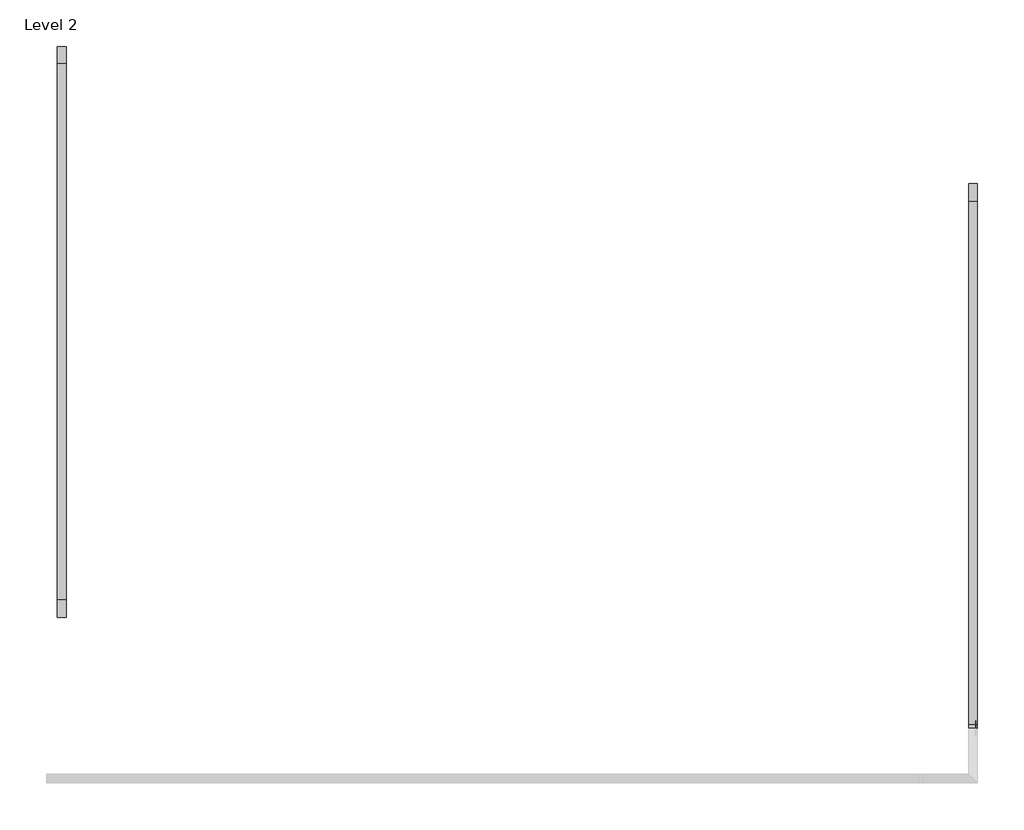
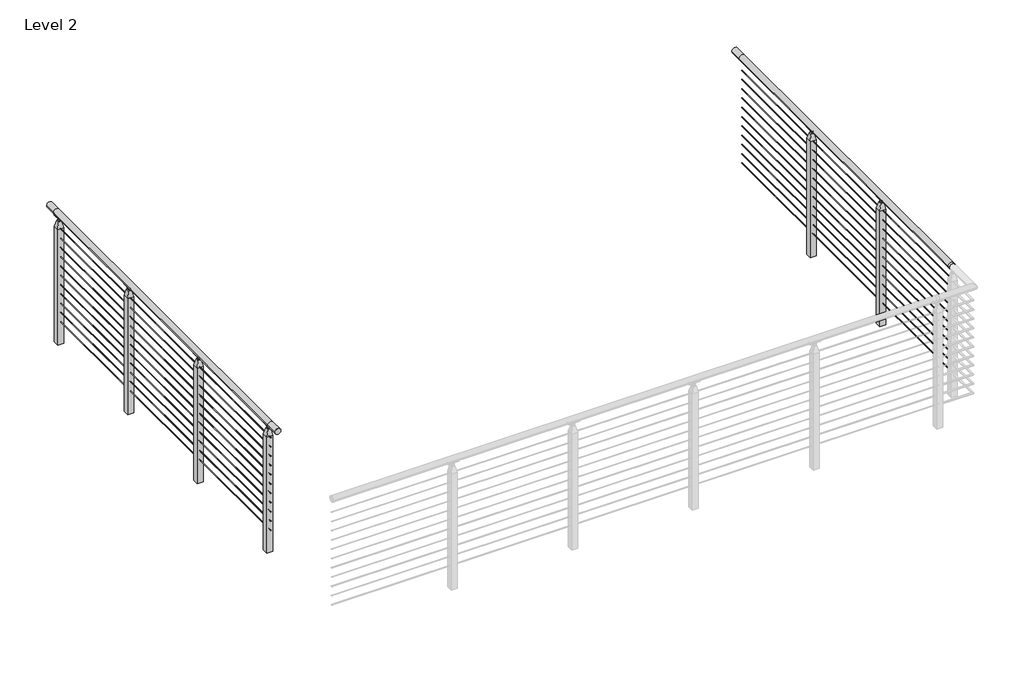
# One storey, part 13 of 17: 2 railings.
"""IFC4 building model written with IfcOpenShell, lengths in millimetres."""

from ifc_helpers import new_model, si_unit, point, frame, frame_2d, origin, place, context, project, spatial, polyline, circle_curve, trimmed, segment, composite_curve, outline, extrude, faceted_brep, element, save
from ifc_brep_helpers import plane_surface, cylinder_surface, revolved_surface, advanced_brep

model = new_model("IFC4")

# Units and contexts
model_context = context("Model", 3, world=origin())
ifc_project = project(units=[si_unit("LENGTHUNIT", "METRE", prefix="MILLI")], contexts=[model_context])

# Site, building, storey
site = spatial("IfcSite", under=ifc_project)
building = spatial("IfcBuilding", under=site)
storey = spatial("IfcBuildingStorey", under=building, Name="Level 2", Elevation=3048.0)

# Railings
placement = place(None, origin())
element("IfcRailing", 1, ObjectType="VIVA-CUBE-Cable-Weld Mount-Straight", at=placement, inside=storey, context=model_context, shape_type="SolidModel", body=[
    advanced_brep(
    [(41230.3572927, -51279.2426165, 4102.1), (41179.5572927, -51279.2426165, 4102.1), (41230.3572927, -51177.6426165, 4102.1), (41179.5572927, -51177.6426165, 4102.1), (41230.3572927, -48053.4426165, 4102.1), (41179.5572927, -48053.4426165, 4102.1), (41230.3572927, -47951.8426165, 4102.1), (41179.5572927, -47951.8426165, 4102.1)],
    [
        (0, 1, circle_curve(frame((41204.9572927, -51279.2426165, 4102.1), z_axis=(0.0, -1.0, 0.0), x_axis=(-1.0, 0.0, 0.0)), 25.4)),
        (1, 0, circle_curve(frame((41204.9572927, -51279.2426165, 4102.1), z_axis=(0.0, -1.0, 0.0), x_axis=(-1.0, 0.0, 0.0)), 25.4)),
        (0, 2),
        (2, 3, circle_curve(frame((41204.9572927, -51177.6426165, 4102.1), z_axis=(0.0, -1.0, 0.0), x_axis=(-1.0, 0.0, 0.0)), 25.4)),
        (3, 1),
        (3, 2, circle_curve(frame((41204.9572927, -51177.6426165, 4102.1), z_axis=(0.0, -1.0, 0.0), x_axis=(-1.0, 0.0, 0.0)), 25.4)),
        (2, 4),
        (4, 5, circle_curve(frame((41204.9572927, -48053.4426165, 4102.1), z_axis=(0.0, -1.0, 0.0), x_axis=(-1.0, 0.0, 0.0)), 25.4)),
        (5, 3),
        (5, 4, circle_curve(frame((41204.9572927, -48053.4426165, 4102.1), z_axis=(0.0, -1.0, 0.0), x_axis=(-1.0, 0.0, 0.0)), 25.4)),
        (6, 7, circle_curve(frame((41204.9572927, -47951.8426165, 4102.1), z_axis=(0.0, 1.0, 0.0), x_axis=(-1.0, 0.0, 0.0)), 25.4)),
        (7, 6, circle_curve(frame((41204.9572927, -47951.8426165, 4102.1), z_axis=(0.0, 1.0, 0.0), x_axis=(-1.0, 0.0, 0.0)), 25.4)),
        (4, 6),
        (7, 5),
    ],
    [
        plane_surface(frame((41204.9572927, -51279.2426165, 4127.5), z_axis=(0.0, -1.0, 0.0), x_axis=(0.0, 0.0, 1.0))),
        cylinder_surface(frame((41204.9572927, -51279.2426165, 4102.1), z_axis=(0.0, -1.0, 0.0), x_axis=(-1.0, 0.0, 0.0)), 25.4),
        cylinder_surface(frame((41204.9572927, -51177.6426165, 4102.1), z_axis=(0.0, -1.0, 0.0), x_axis=(-1.0, 0.0, 0.0)), 25.4),
        plane_surface(frame((41204.9572927, -47951.8426165, 4127.5), z_axis=(0.0, 1.0, 0.0), x_axis=(0.0, 0.0, 1.0))),
        cylinder_surface(frame((41204.9572927, -48053.4426165, 4102.1), z_axis=(0.0, -1.0, 0.0), x_axis=(-1.0, 0.0, 0.0)), 25.4),
    ],
    [
        (0, [[1, 2]]),
        (1, [[-1, 3, 4, 5]]),
        (1, [[-2, -5, 6, -3]]),
        (2, [[-4, 7, 8, 9]]),
        (2, [[-6, -9, 10, -7]]),
        (3, [[11, 12]]),
        (4, [[-8, 13, -12, 14]]),
        (4, [[-10, -14, -11, -13]]),
    ],
),
    extrude(outline(composite_curve([segment(trimmed(circle_curve(frame_2d((3985.4124, 41204.9572927)), 2.3876), [point((3985.4124, 41207.3448927))], [point((3985.4124, 41202.5696927))], False, "CARTESIAN"), True, "CONTINUOUS"), segment(trimmed(circle_curve(frame_2d((3985.4124, 41204.9572927)), 2.3876), [point((3985.4124, 41202.5696927))], [point((3985.4124, 41207.3448927))], False, "CARTESIAN"), True, "CONTINUOUS")], self_intersect=False)), frame((0.0, -51177.6426165, 0.0), z_axis=(0.0, 1.0, 0.0), x_axis=(0.0, 0.0, 1.0)), (0.0, 0.0, 1.0), 3124.2),
    extrude(outline(composite_curve([segment(trimmed(circle_curve(frame_2d((3902.8624, 41204.9572927)), 2.3876), [point((3902.8624, 41207.3448927))], [point((3902.8624, 41202.5696927))], False, "CARTESIAN"), True, "CONTINUOUS"), segment(trimmed(circle_curve(frame_2d((3902.8624, 41204.9572927)), 2.3876), [point((3902.8624, 41202.5696927))], [point((3902.8624, 41207.3448927))], False, "CARTESIAN"), True, "CONTINUOUS")], self_intersect=False)), frame((0.0, -51177.6426165, 0.0), z_axis=(0.0, 1.0, 0.0), x_axis=(0.0, 0.0, 1.0)), (0.0, 0.0, 1.0), 3124.2),
    extrude(outline(composite_curve([segment(trimmed(circle_curve(frame_2d((3820.3124, 41204.9572927)), 2.3876), [point((3820.3124, 41207.3448927))], [point((3820.3124, 41202.5696927))], False, "CARTESIAN"), True, "CONTINUOUS"), segment(trimmed(circle_curve(frame_2d((3820.3124, 41204.9572927)), 2.3876), [point((3820.3124, 41202.5696927))], [point((3820.3124, 41207.3448927))], False, "CARTESIAN"), True, "CONTINUOUS")], self_intersect=False)), frame((0.0, -51177.6426165, 0.0), z_axis=(0.0, 1.0, 0.0), x_axis=(0.0, 0.0, 1.0)), (0.0, 0.0, 1.0), 3124.2),
    extrude(outline(composite_curve([segment(trimmed(circle_curve(frame_2d((3737.7624, 41204.9572927)), 2.3876), [point((3737.7624, 41207.3448927))], [point((3737.7624, 41202.5696927))], False, "CARTESIAN"), True, "CONTINUOUS"), segment(trimmed(circle_curve(frame_2d((3737.7624, 41204.9572927)), 2.3876), [point((3737.7624, 41202.5696927))], [point((3737.7624, 41207.3448927))], False, "CARTESIAN"), True, "CONTINUOUS")], self_intersect=False)), frame((0.0, -51177.6426165, 0.0), z_axis=(0.0, 1.0, 0.0), x_axis=(0.0, 0.0, 1.0)), (0.0, 0.0, 1.0), 3124.2),
    extrude(outline(composite_curve([segment(trimmed(circle_curve(frame_2d((3655.2124, 41204.9572927)), 2.3876), [point((3655.2124, 41207.3448927))], [point((3655.2124, 41202.5696927))], False, "CARTESIAN"), True, "CONTINUOUS"), segment(trimmed(circle_curve(frame_2d((3655.2124, 41204.9572927)), 2.3876), [point((3655.2124, 41202.5696927))], [point((3655.2124, 41207.3448927))], False, "CARTESIAN"), True, "CONTINUOUS")], self_intersect=False)), frame((0.0, -51177.6426165, 0.0), z_axis=(0.0, 1.0, 0.0), x_axis=(0.0, 0.0, 1.0)), (0.0, 0.0, 1.0), 3124.2),
    extrude(outline(composite_curve([segment(trimmed(circle_curve(frame_2d((3572.6624, 41204.9572927)), 2.3876), [point((3572.6624, 41207.3448927))], [point((3572.6624, 41202.5696927))], False, "CARTESIAN"), True, "CONTINUOUS"), segment(trimmed(circle_curve(frame_2d((3572.6624, 41204.9572927)), 2.3876), [point((3572.6624, 41202.5696927))], [point((3572.6624, 41207.3448927))], False, "CARTESIAN"), True, "CONTINUOUS")], self_intersect=False)), frame((0.0, -51177.6426165, 0.0), z_axis=(0.0, 1.0, 0.0), x_axis=(0.0, 0.0, 1.0)), (0.0, 0.0, 1.0), 3124.2),
    extrude(outline(composite_curve([segment(trimmed(circle_curve(frame_2d((3490.1124, 41204.9572927)), 2.3876), [point((3490.1124, 41207.3448927))], [point((3490.1124, 41202.5696927))], False, "CARTESIAN"), True, "CONTINUOUS"), segment(trimmed(circle_curve(frame_2d((3490.1124, 41204.9572927)), 2.3876), [point((3490.1124, 41202.5696927))], [point((3490.1124, 41207.3448927))], False, "CARTESIAN"), True, "CONTINUOUS")], self_intersect=False)), frame((0.0, -51177.6426165, 0.0), z_axis=(0.0, 1.0, 0.0), x_axis=(0.0, 0.0, 1.0)), (0.0, 0.0, 1.0), 3124.2),
    extrude(outline(composite_curve([segment(trimmed(circle_curve(frame_2d((3407.5624, 41204.9572927)), 2.3876), [point((3407.5624, 41207.3448927))], [point((3407.5624, 41202.5696927))], False, "CARTESIAN"), True, "CONTINUOUS"), segment(trimmed(circle_curve(frame_2d((3407.5624, 41204.9572927)), 2.3876), [point((3407.5624, 41202.5696927))], [point((3407.5624, 41207.3448927))], False, "CARTESIAN"), True, "CONTINUOUS")], self_intersect=False)), frame((0.0, -51177.6426165, 0.0), z_axis=(0.0, 1.0, 0.0), x_axis=(0.0, 0.0, 1.0)), (0.0, 0.0, 1.0), 3124.2),
    extrude(outline(composite_curve([segment(trimmed(circle_curve(frame_2d((3325.0124, 41204.9572927)), 2.3876), [point((3325.0124, 41207.3448927))], [point((3325.0124, 41202.5696927))], False, "CARTESIAN"), True, "CONTINUOUS"), segment(trimmed(circle_curve(frame_2d((3325.0124, 41204.9572927)), 2.3876), [point((3325.0124, 41202.5696927))], [point((3325.0124, 41207.3448927))], False, "CARTESIAN"), True, "CONTINUOUS")], self_intersect=False)), frame((0.0, -51177.6426165, 0.0), z_axis=(0.0, 1.0, 0.0), x_axis=(0.0, 0.0, 1.0)), (0.0, 0.0, 1.0), 3124.2),
    extrude(outline(composite_curve([segment(trimmed(circle_curve(frame_2d((3242.4624, 41204.9572927)), 2.3876), [point((3242.4624, 41207.3448927))], [point((3242.4624, 41202.5696927))], False, "CARTESIAN"), True, "CONTINUOUS"), segment(trimmed(circle_curve(frame_2d((3242.4624, 41204.9572927)), 2.3876), [point((3242.4624, 41202.5696927))], [point((3242.4624, 41207.3448927))], False, "CARTESIAN"), True, "CONTINUOUS")], self_intersect=False)), frame((0.0, -51177.6426165, 0.0), z_axis=(0.0, 1.0, 0.0), x_axis=(0.0, 0.0, 1.0)), (0.0, 0.0, 1.0), 3124.2),
    extrude(outline(composite_curve([segment(trimmed(circle_curve(frame_2d((3159.9124, 41204.9572927)), 2.3876), [point((3159.9124, 41207.3448927))], [point((3159.9124, 41202.5696927))], False, "CARTESIAN"), True, "CONTINUOUS"), segment(trimmed(circle_curve(frame_2d((3159.9124, 41204.9572927)), 2.3876), [point((3159.9124, 41202.5696927))], [point((3159.9124, 41207.3448927))], False, "CARTESIAN"), True, "CONTINUOUS")], self_intersect=False)), frame((0.0, -51177.6426165, 0.0), z_axis=(0.0, 1.0, 0.0), x_axis=(0.0, 0.0, 1.0)), (0.0, 0.0, 1.0), 3124.2),
    faceted_brep([(41217.6572927, -48078.4457415, 4045.2902749), (41208.9260427, -48078.4457415, 4045.2902749), (41208.9260427, -48103.8457415, 4045.2902749), (41217.6572927, -48103.8457415, 4045.2902749), (41192.2572927, -48103.8457415, 4045.2902749), (41200.9885427, -48103.8457415, 4045.2902749), (41200.9885427, -48078.4457415, 4045.2902749), (41192.2572927, -48078.4457415, 4045.2902749), (41230.3572927, -48065.7457415, 3989.1347854), (41179.5572927, -48065.7457415, 3989.1347854), (41230.3572927, -48116.5457415, 3989.1347854), (41179.5572927, -48116.5457415, 3989.1347854), (41230.3572927, -48065.7457415, 2959.1), (41230.3572927, -48116.5457415, 2959.1), (41179.5572927, -48116.5457415, 2959.1), (41179.5572927, -48065.7457415, 2959.1), (41200.9885427, -48103.8457415, 4057.3306013), (41208.9260427, -48103.8457415, 4057.3306013), (41208.9260427, -48078.4457415, 4057.3306013), (41200.9885427, -48078.4457415, 4057.3306013)], [[[0, 1, 2, 3]], [[4, 5, 6, 7]], [[8, 9, 7, 6, 1, 0]], [[3, 10, 8, 0]], [[3, 2, 5, 4, 11, 10]], [[7, 9, 11, 4]], [[12, 13, 14, 15]], [[12, 8, 10, 13]], [[13, 10, 11, 14]], [[14, 11, 9, 15]], [[15, 9, 8, 12]], [[16, 17, 18, 19]], [[19, 6, 5, 16]], [[18, 1, 6, 19]], [[17, 2, 1, 18]], [[16, 5, 2, 17]]]),
    extrude(outline(composite_curve([segment(trimmed(circle_curve(frame_2d((4077.5101807, 41190.9426605)), 2.9558141), [point((4080.0284941, 41192.4902182))], [point((4075.6392616, 41188.6543207))], False, "CARTESIAN"), True, "CONTINUOUS"), segment(trimmed(circle_curve(frame_2d((4102.905945, 41204.920558)), 31.75), [point((4075.6392616, 41188.6543207))], [point((4075.0585031, 41220.171213))], False, "CARTESIAN"), True, "CONTINUOUS"), segment(trimmed(circle_curve(frame_2d((4077.4310885, 41218.6939079)), 2.7949225), [point((4075.0585031, 41220.171213))], [point((4079.9335733, 41217.4492548))], False, "CARTESIAN"), True, "CONTINUOUS"), segment(trimmed(circle_curve(frame_2d((4102.1433184, 41205.0540211)), 25.4345159), [point((4079.9335733, 41217.4492548))], [point((4080.0284941, 41192.4902182))], True, "CARTESIAN"), True, "CONTINUOUS")], self_intersect=False)), frame((0.0, -48136.3831415, 0.0), z_axis=(0.0, 1.0, 0.0), x_axis=(0.0, 0.0, 1.0)), (0.0, 0.0, 1.0), 90.4748),
    advanced_brep(
    [(41207.4972927, -48064.0778267, 4071.3685171), (41207.4972927, -48118.2136564, 4071.3685171), (41207.4972927, -48103.8457415, 4057.0006022), (41207.4972927, -48078.4457415, 4057.0006022), (41202.4172927, -48064.0778267, 4071.3685171), (41202.4172927, -48078.4457415, 4057.0006022), (41202.4172927, -48103.8457415, 4057.0006022), (41202.4172927, -48118.2136564, 4071.3685171)],
    [
        (0, 1),
        (1, 2, circle_curve(frame((41207.4972927, -48118.2136564, 4057.0006022), z_axis=(-1.0, 0.0, 0.0), x_axis=(0.0, -1.0, 0.0)), 14.3679149)),
        (2, 3, circle_curve(frame((41207.4972927, -48091.1457415, 4057.0006022), z_axis=(1.0, 0.0, 0.0), x_axis=(0.0, -1.0, 0.0)), 12.7)),
        (3, 0, circle_curve(frame((41207.4972927, -48064.0778267, 4057.0006022), z_axis=(-1.0, 0.0, 0.0), x_axis=(0.0, -1.0, 0.0)), 14.3679149)),
        (4, 5, circle_curve(frame((41202.4172927, -48064.0778267, 4057.0006022), z_axis=(1.0, 0.0, 0.0), x_axis=(0.0, -1.0, 0.0)), 14.3679149)),
        (5, 6, circle_curve(frame((41202.4172927, -48091.1457415, 4057.0006022), z_axis=(-1.0, 0.0, 0.0), x_axis=(0.0, -1.0, 0.0)), 12.7)),
        (6, 7, circle_curve(frame((41202.4172927, -48118.2136564, 4057.0006022), z_axis=(1.0, 0.0, 0.0), x_axis=(0.0, -1.0, 0.0)), 14.3679149)),
        (7, 4),
        (3, 5),
        (4, 0),
        (2, 6),
        (1, 7),
    ],
    [
        plane_surface(frame((41207.4972927, -48078.4457415, 4057.0006022), z_axis=(1.0, 0.0, 0.0), x_axis=(0.0, 0.0, -1.0))),
        plane_surface(frame((41202.4172927, -48078.4457415, 4057.0006022), z_axis=(-1.0, 0.0, 0.0), x_axis=(0.0, 0.0, 1.0))),
        revolved_surface(polyline([(41202.4172927, -48078.4457416, 4057.0006022), (41207.4972927, -48078.4457416, 4057.0006022)]), (41202.4172927, -48064.0778267, 4057.0006022), (-1.0, 0.0, 0.0)),
        cylinder_surface(frame((41202.4172927, -48091.1457415, 4057.0006022), z_axis=(1.0, 0.0, 0.0), x_axis=(0.0, -1.0, 0.0)), 12.7),
        revolved_surface(polyline([(41202.4172927, -48132.581571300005, 4057.0006022), (41207.4972927, -48132.581571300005, 4057.0006022)]), (41202.4172927, -48118.2136564, 4057.0006022), (-1.0, 0.0, 0.0)),
        plane_surface(frame((41207.4972927, -48118.2136564, 4071.3685171), z_axis=(0.0, 0.0, 1.0), x_axis=(-1.0, 0.0, 0.0))),
    ],
    [
        (0, [[1, 2, 3, 4]]),
        (1, [[5, 6, 7, 8]]),
        (2, [[9, -5, 10, -4]]),
        (3, [[11, -6, -9, -3]]),
        (4, [[12, -7, -11, -2]]),
        (5, [[-10, -8, -12, -1]]),
    ],
),
    faceted_brep([(41217.6572927, -49094.4457415, 4045.2902749), (41208.9260427, -49094.4457415, 4045.2902749), (41208.9260427, -49119.8457415, 4045.2902749), (41217.6572927, -49119.8457415, 4045.2902749), (41192.2572927, -49119.8457415, 4045.2902749), (41200.9885427, -49119.8457415, 4045.2902749), (41200.9885427, -49094.4457415, 4045.2902749), (41192.2572927, -49094.4457415, 4045.2902749), (41230.3572927, -49081.7457415, 3989.1347854), (41179.5572927, -49081.7457415, 3989.1347854), (41230.3572927, -49132.5457415, 3989.1347854), (41179.5572927, -49132.5457415, 3989.1347854), (41230.3572927, -49081.7457415, 2959.1), (41230.3572927, -49132.5457415, 2959.1), (41179.5572927, -49132.5457415, 2959.1), (41179.5572927, -49081.7457415, 2959.1), (41200.9885427, -49119.8457415, 4057.3306013), (41208.9260427, -49119.8457415, 4057.3306013), (41208.9260427, -49094.4457415, 4057.3306013), (41200.9885427, -49094.4457415, 4057.3306013)], [[[0, 1, 2, 3]], [[4, 5, 6, 7]], [[8, 9, 7, 6, 1, 0]], [[3, 10, 8, 0]], [[3, 2, 5, 4, 11, 10]], [[7, 9, 11, 4]], [[12, 13, 14, 15]], [[12, 8, 10, 13]], [[13, 10, 11, 14]], [[14, 11, 9, 15]], [[15, 9, 8, 12]], [[16, 17, 18, 19]], [[19, 6, 5, 16]], [[18, 1, 6, 19]], [[17, 2, 1, 18]], [[16, 5, 2, 17]]]),
    extrude(outline(composite_curve([segment(trimmed(circle_curve(frame_2d((4077.5101807, 41190.9426605)), 2.9558141), [point((4080.0284941, 41192.4902182))], [point((4075.6392616, 41188.6543207))], False, "CARTESIAN"), True, "CONTINUOUS"), segment(trimmed(circle_curve(frame_2d((4102.905945, 41204.920558)), 31.75), [point((4075.6392616, 41188.6543207))], [point((4075.0585031, 41220.171213))], False, "CARTESIAN"), True, "CONTINUOUS"), segment(trimmed(circle_curve(frame_2d((4077.4310885, 41218.6939079)), 2.7949225), [point((4075.0585031, 41220.171213))], [point((4079.9335733, 41217.4492548))], False, "CARTESIAN"), True, "CONTINUOUS"), segment(trimmed(circle_curve(frame_2d((4102.1433184, 41205.0540211)), 25.4345159), [point((4079.9335733, 41217.4492548))], [point((4080.0284941, 41192.4902182))], True, "CARTESIAN"), True, "CONTINUOUS")], self_intersect=False)), frame((0.0, -49152.3831415, 0.0), z_axis=(0.0, 1.0, 0.0), x_axis=(0.0, 0.0, 1.0)), (0.0, 0.0, 1.0), 90.4748),
    advanced_brep(
    [(41207.4972927, -49080.0778267, 4071.3685171), (41207.4972927, -49134.2136564, 4071.3685171), (41207.4972927, -49119.8457415, 4057.0006022), (41207.4972927, -49094.4457415, 4057.0006022), (41202.4172927, -49080.0778267, 4071.3685171), (41202.4172927, -49094.4457415, 4057.0006022), (41202.4172927, -49119.8457415, 4057.0006022), (41202.4172927, -49134.2136564, 4071.3685171)],
    [
        (0, 1),
        (1, 2, circle_curve(frame((41207.4972927, -49134.2136564, 4057.0006022), z_axis=(-1.0, 0.0, 0.0), x_axis=(0.0, -1.0, 0.0)), 14.3679149)),
        (2, 3, circle_curve(frame((41207.4972927, -49107.1457415, 4057.0006022), z_axis=(1.0, 0.0, 0.0), x_axis=(0.0, -1.0, 0.0)), 12.7)),
        (3, 0, circle_curve(frame((41207.4972927, -49080.0778267, 4057.0006022), z_axis=(-1.0, 0.0, 0.0), x_axis=(0.0, -1.0, 0.0)), 14.3679149)),
        (4, 5, circle_curve(frame((41202.4172927, -49080.0778267, 4057.0006022), z_axis=(1.0, 0.0, 0.0), x_axis=(0.0, -1.0, 0.0)), 14.3679149)),
        (5, 6, circle_curve(frame((41202.4172927, -49107.1457415, 4057.0006022), z_axis=(-1.0, 0.0, 0.0), x_axis=(0.0, -1.0, 0.0)), 12.7)),
        (6, 7, circle_curve(frame((41202.4172927, -49134.2136564, 4057.0006022), z_axis=(1.0, 0.0, 0.0), x_axis=(0.0, -1.0, 0.0)), 14.3679149)),
        (7, 4),
        (3, 5),
        (4, 0),
        (2, 6),
        (1, 7),
    ],
    [
        plane_surface(frame((41207.4972927, -49094.4457415, 4057.0006022), z_axis=(1.0, 0.0, 0.0), x_axis=(0.0, 0.0, -1.0))),
        plane_surface(frame((41202.4172927, -49094.4457415, 4057.0006022), z_axis=(-1.0, 0.0, 0.0), x_axis=(0.0, 0.0, 1.0))),
        revolved_surface(polyline([(41202.4172927, -49094.4457416, 4057.0006022), (41207.4972927, -49094.4457416, 4057.0006022)]), (41202.4172927, -49080.0778267, 4057.0006022), (-1.0, 0.0, 0.0)),
        cylinder_surface(frame((41202.4172927, -49107.1457415, 4057.0006022), z_axis=(1.0, 0.0, 0.0), x_axis=(0.0, -1.0, 0.0)), 12.7),
        revolved_surface(polyline([(41202.4172927, -49148.581571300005, 4057.0006022), (41207.4972927, -49148.581571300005, 4057.0006022)]), (41202.4172927, -49134.2136564, 4057.0006022), (-1.0, 0.0, 0.0)),
        plane_surface(frame((41207.4972927, -49134.2136564, 4071.3685171), z_axis=(0.0, 0.0, 1.0), x_axis=(-1.0, 0.0, 0.0))),
    ],
    [
        (0, [[1, 2, 3, 4]]),
        (1, [[5, 6, 7, 8]]),
        (2, [[9, -5, 10, -4]]),
        (3, [[11, -6, -9, -3]]),
        (4, [[12, -7, -11, -2]]),
        (5, [[-10, -8, -12, -1]]),
    ],
),
    faceted_brep([(41217.6572927, -50110.4457415, 4045.2902749), (41208.9260427, -50110.4457415, 4045.2902749), (41208.9260427, -50135.8457415, 4045.2902749), (41217.6572927, -50135.8457415, 4045.2902749), (41192.2572927, -50135.8457415, 4045.2902749), (41200.9885427, -50135.8457415, 4045.2902749), (41200.9885427, -50110.4457415, 4045.2902749), (41192.2572927, -50110.4457415, 4045.2902749), (41230.3572927, -50097.7457415, 3989.1347854), (41179.5572927, -50097.7457415, 3989.1347854), (41230.3572927, -50148.5457415, 3989.1347854), (41179.5572927, -50148.5457415, 3989.1347854), (41230.3572927, -50097.7457415, 2959.1), (41230.3572927, -50148.5457415, 2959.1), (41179.5572927, -50148.5457415, 2959.1), (41179.5572927, -50097.7457415, 2959.1), (41200.9885427, -50135.8457415, 4057.3306013), (41208.9260427, -50135.8457415, 4057.3306013), (41208.9260427, -50110.4457415, 4057.3306013), (41200.9885427, -50110.4457415, 4057.3306013)], [[[0, 1, 2, 3]], [[4, 5, 6, 7]], [[8, 9, 7, 6, 1, 0]], [[3, 10, 8, 0]], [[3, 2, 5, 4, 11, 10]], [[7, 9, 11, 4]], [[12, 13, 14, 15]], [[12, 8, 10, 13]], [[13, 10, 11, 14]], [[14, 11, 9, 15]], [[15, 9, 8, 12]], [[16, 17, 18, 19]], [[19, 6, 5, 16]], [[18, 1, 6, 19]], [[17, 2, 1, 18]], [[16, 5, 2, 17]]]),
    extrude(outline(composite_curve([segment(trimmed(circle_curve(frame_2d((4077.5101807, 41190.9426605)), 2.9558141), [point((4080.0284941, 41192.4902182))], [point((4075.6392616, 41188.6543207))], False, "CARTESIAN"), True, "CONTINUOUS"), segment(trimmed(circle_curve(frame_2d((4102.905945, 41204.920558)), 31.75), [point((4075.6392616, 41188.6543207))], [point((4075.0585031, 41220.171213))], False, "CARTESIAN"), True, "CONTINUOUS"), segment(trimmed(circle_curve(frame_2d((4077.4310885, 41218.6939079)), 2.7949225), [point((4075.0585031, 41220.171213))], [point((4079.9335733, 41217.4492548))], False, "CARTESIAN"), True, "CONTINUOUS"), segment(trimmed(circle_curve(frame_2d((4102.1433184, 41205.0540211)), 25.4345159), [point((4079.9335733, 41217.4492548))], [point((4080.0284941, 41192.4902182))], True, "CARTESIAN"), True, "CONTINUOUS")], self_intersect=False)), frame((0.0, -50168.3831415, 0.0), z_axis=(0.0, 1.0, 0.0), x_axis=(0.0, 0.0, 1.0)), (0.0, 0.0, 1.0), 90.4748),
    advanced_brep(
    [(41207.4972927, -50096.0778267, 4071.3685171), (41207.4972927, -50150.2136564, 4071.3685171), (41207.4972927, -50135.8457415, 4057.0006022), (41207.4972927, -50110.4457415, 4057.0006022), (41202.4172927, -50096.0778267, 4071.3685171), (41202.4172927, -50110.4457415, 4057.0006022), (41202.4172927, -50135.8457415, 4057.0006022), (41202.4172927, -50150.2136564, 4071.3685171)],
    [
        (0, 1),
        (1, 2, circle_curve(frame((41207.4972927, -50150.2136564, 4057.0006022), z_axis=(-1.0, 0.0, 0.0), x_axis=(0.0, -1.0, 0.0)), 14.3679149)),
        (2, 3, circle_curve(frame((41207.4972927, -50123.1457415, 4057.0006022), z_axis=(1.0, 0.0, 0.0), x_axis=(0.0, -1.0, 0.0)), 12.7)),
        (3, 0, circle_curve(frame((41207.4972927, -50096.0778267, 4057.0006022), z_axis=(-1.0, 0.0, 0.0), x_axis=(0.0, -1.0, 0.0)), 14.3679149)),
        (4, 5, circle_curve(frame((41202.4172927, -50096.0778267, 4057.0006022), z_axis=(1.0, 0.0, 0.0), x_axis=(0.0, -1.0, 0.0)), 14.3679149)),
        (5, 6, circle_curve(frame((41202.4172927, -50123.1457415, 4057.0006022), z_axis=(-1.0, 0.0, 0.0), x_axis=(0.0, -1.0, 0.0)), 12.7)),
        (6, 7, circle_curve(frame((41202.4172927, -50150.2136564, 4057.0006022), z_axis=(1.0, 0.0, 0.0), x_axis=(0.0, -1.0, 0.0)), 14.3679149)),
        (7, 4),
        (3, 5),
        (4, 0),
        (2, 6),
        (1, 7),
    ],
    [
        plane_surface(frame((41207.4972927, -50110.4457415, 4057.0006022), z_axis=(1.0, 0.0, 0.0), x_axis=(0.0, 0.0, -1.0))),
        plane_surface(frame((41202.4172927, -50110.4457415, 4057.0006022), z_axis=(-1.0, 0.0, 0.0), x_axis=(0.0, 0.0, 1.0))),
        revolved_surface(polyline([(41202.4172927, -50110.4457416, 4057.0006022), (41207.4972927, -50110.4457416, 4057.0006022)]), (41202.4172927, -50096.0778267, 4057.0006022), (-1.0, 0.0, 0.0)),
        cylinder_surface(frame((41202.4172927, -50123.1457415, 4057.0006022), z_axis=(1.0, 0.0, 0.0), x_axis=(0.0, -1.0, 0.0)), 12.7),
        revolved_surface(polyline([(41202.4172927, -50164.581571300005, 4057.0006022), (41207.4972927, -50164.581571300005, 4057.0006022)]), (41202.4172927, -50150.2136564, 4057.0006022), (-1.0, 0.0, 0.0)),
        plane_surface(frame((41207.4972927, -50150.2136564, 4071.3685171), z_axis=(0.0, 0.0, 1.0), x_axis=(-1.0, 0.0, 0.0))),
    ],
    [
        (0, [[1, 2, 3, 4]]),
        (1, [[5, 6, 7, 8]]),
        (2, [[9, -5, 10, -4]]),
        (3, [[11, -6, -9, -3]]),
        (4, [[12, -7, -11, -2]]),
        (5, [[-10, -8, -12, -1]]),
    ],
),
    faceted_brep([(41217.6572927, -51126.4457415, 4045.2902749), (41208.9260427, -51126.4457415, 4045.2902749), (41208.9260427, -51151.8457415, 4045.2902749), (41217.6572927, -51151.8457415, 4045.2902749), (41192.2572927, -51151.8457415, 4045.2902749), (41200.9885427, -51151.8457415, 4045.2902749), (41200.9885427, -51126.4457415, 4045.2902749), (41192.2572927, -51126.4457415, 4045.2902749), (41230.3572927, -51113.7457415, 3989.1347854), (41179.5572927, -51113.7457415, 3989.1347854), (41230.3572927, -51164.5457415, 3989.1347854), (41179.5572927, -51164.5457415, 3989.1347854), (41230.3572927, -51113.7457415, 2959.1), (41230.3572927, -51164.5457415, 2959.1), (41179.5572927, -51164.5457415, 2959.1), (41179.5572927, -51113.7457415, 2959.1), (41200.9885427, -51151.8457415, 4057.3306013), (41208.9260427, -51151.8457415, 4057.3306013), (41208.9260427, -51126.4457415, 4057.3306013), (41200.9885427, -51126.4457415, 4057.3306013)], [[[0, 1, 2, 3]], [[4, 5, 6, 7]], [[8, 9, 7, 6, 1, 0]], [[3, 10, 8, 0]], [[3, 2, 5, 4, 11, 10]], [[7, 9, 11, 4]], [[12, 13, 14, 15]], [[12, 8, 10, 13]], [[13, 10, 11, 14]], [[14, 11, 9, 15]], [[15, 9, 8, 12]], [[16, 17, 18, 19]], [[19, 6, 5, 16]], [[18, 1, 6, 19]], [[17, 2, 1, 18]], [[16, 5, 2, 17]]]),
    extrude(outline(composite_curve([segment(trimmed(circle_curve(frame_2d((4077.5101807, 41190.9426605)), 2.9558141), [point((4080.0284941, 41192.4902182))], [point((4075.6392616, 41188.6543207))], False, "CARTESIAN"), True, "CONTINUOUS"), segment(trimmed(circle_curve(frame_2d((4102.905945, 41204.920558)), 31.75), [point((4075.6392616, 41188.6543207))], [point((4075.0585031, 41220.171213))], False, "CARTESIAN"), True, "CONTINUOUS"), segment(trimmed(circle_curve(frame_2d((4077.4310885, 41218.6939079)), 2.7949225), [point((4075.0585031, 41220.171213))], [point((4079.9335733, 41217.4492548))], False, "CARTESIAN"), True, "CONTINUOUS"), segment(trimmed(circle_curve(frame_2d((4102.1433184, 41205.0540211)), 25.4345159), [point((4079.9335733, 41217.4492548))], [point((4080.0284941, 41192.4902182))], True, "CARTESIAN"), True, "CONTINUOUS")], self_intersect=False)), frame((0.0, -51184.3831415, 0.0), z_axis=(0.0, 1.0, 0.0), x_axis=(0.0, 0.0, 1.0)), (0.0, 0.0, 1.0), 90.4748),
    advanced_brep(
    [(41207.4972927, -51112.0778267, 4071.3685171), (41207.4972927, -51166.2136564, 4071.3685171), (41207.4972927, -51151.8457415, 4057.0006022), (41207.4972927, -51126.4457415, 4057.0006022), (41202.4172927, -51112.0778267, 4071.3685171), (41202.4172927, -51126.4457415, 4057.0006022), (41202.4172927, -51151.8457415, 4057.0006022), (41202.4172927, -51166.2136564, 4071.3685171)],
    [
        (0, 1),
        (1, 2, circle_curve(frame((41207.4972927, -51166.2136564, 4057.0006022), z_axis=(-1.0, 0.0, 0.0), x_axis=(0.0, -1.0, 0.0)), 14.3679149)),
        (2, 3, circle_curve(frame((41207.4972927, -51139.1457415, 4057.0006022), z_axis=(1.0, 0.0, 0.0), x_axis=(0.0, -1.0, 0.0)), 12.7)),
        (3, 0, circle_curve(frame((41207.4972927, -51112.0778267, 4057.0006022), z_axis=(-1.0, 0.0, 0.0), x_axis=(0.0, -1.0, 0.0)), 14.3679149)),
        (4, 5, circle_curve(frame((41202.4172927, -51112.0778267, 4057.0006022), z_axis=(1.0, 0.0, 0.0), x_axis=(0.0, -1.0, 0.0)), 14.3679149)),
        (5, 6, circle_curve(frame((41202.4172927, -51139.1457415, 4057.0006022), z_axis=(-1.0, 0.0, 0.0), x_axis=(0.0, -1.0, 0.0)), 12.7)),
        (6, 7, circle_curve(frame((41202.4172927, -51166.2136564, 4057.0006022), z_axis=(1.0, 0.0, 0.0), x_axis=(0.0, -1.0, 0.0)), 14.3679149)),
        (7, 4),
        (3, 5),
        (4, 0),
        (2, 6),
        (1, 7),
    ],
    [
        plane_surface(frame((41207.4972927, -51126.4457415, 4057.0006022), z_axis=(1.0, 0.0, 0.0), x_axis=(0.0, 0.0, -1.0))),
        plane_surface(frame((41202.4172927, -51126.4457415, 4057.0006022), z_axis=(-1.0, 0.0, 0.0), x_axis=(0.0, 0.0, 1.0))),
        revolved_surface(polyline([(41202.4172927, -51126.4457416, 4057.0006022), (41207.4972927, -51126.4457416, 4057.0006022)]), (41202.4172927, -51112.0778267, 4057.0006022), (-1.0, 0.0, 0.0)),
        cylinder_surface(frame((41202.4172927, -51139.1457415, 4057.0006022), z_axis=(1.0, 0.0, 0.0), x_axis=(0.0, -1.0, 0.0)), 12.7),
        revolved_surface(polyline([(41202.4172927, -51180.581571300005, 4057.0006022), (41207.4972927, -51180.581571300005, 4057.0006022)]), (41202.4172927, -51166.2136564, 4057.0006022), (-1.0, 0.0, 0.0)),
        plane_surface(frame((41207.4972927, -51166.2136564, 4071.3685171), z_axis=(0.0, 0.0, 1.0), x_axis=(-1.0, 0.0, 0.0))),
    ],
    [
        (0, [[1, 2, 3, 4]]),
        (1, [[5, 6, 7, 8]]),
        (2, [[9, -5, 10, -4]]),
        (3, [[11, -6, -9, -3]]),
        (4, [[12, -7, -11, -2]]),
        (5, [[-10, -8, -12, -1]]),
    ],
),
])
element("IfcRailing", 2, ObjectType="VIVA-CUBE-Cable-Weld Mount-Straight", at=placement, inside=storey, context=model_context, shape_type="SolidModel", body=[
    advanced_brep(
    [(46538.5723014, -48751.5457415, 4102.1), (46487.7723014, -48751.5457415, 4102.1), (46487.7723014, -48853.1457415, 4102.1), (46538.5723014, -48853.1457415, 4102.1), (46487.7723014, -51901.1457415, 4102.1), (46538.5723014, -51901.1457415, 4102.1), (46538.5723014, -51926.9426165, 4102.1), (46487.7723014, -51926.9426165, 4102.1)],
    [
        (0, 1, circle_curve(frame((46513.1723014, -48751.5457415, 4102.1), z_axis=(0.0, 1.0, 0.0), x_axis=(-1.0, 0.0, 0.0)), 25.4)),
        (1, 0, circle_curve(frame((46513.1723014, -48751.5457415, 4102.1), z_axis=(0.0, 1.0, 0.0), x_axis=(-1.0, 0.0, 0.0)), 25.4)),
        (2, 3, circle_curve(frame((46513.1723014, -48853.1457415, 4102.1), z_axis=(0.0, 1.0, 0.0), x_axis=(-1.0, 0.0, 0.0)), 25.4)),
        (3, 0),
        (1, 2),
        (3, 2, circle_curve(frame((46513.1723014, -48853.1457415, 4102.1), z_axis=(0.0, 1.0, 0.0), x_axis=(-1.0, 0.0, 0.0)), 25.4)),
        (4, 5, circle_curve(frame((46513.1723014, -51901.1457415, 4102.1), z_axis=(0.0, 1.0, 0.0), x_axis=(-1.0, 0.0, 0.0)), 25.4)),
        (5, 3),
        (2, 4),
        (5, 4, circle_curve(frame((46513.1723014, -51901.1457415, 4102.1), z_axis=(0.0, 1.0, 0.0), x_axis=(-1.0, 0.0, 0.0)), 25.4)),
        (6, 7, circle_curve(frame((46513.1723014, -51926.9426165, 4102.1), z_axis=(0.0, -1.0, 0.0), x_axis=(-1.0, 0.0, 0.0)), 25.4)),
        (7, 6, circle_curve(frame((46513.1723014, -51926.9426165, 4102.1), z_axis=(0.0, -1.0, 0.0), x_axis=(-1.0, 0.0, 0.0)), 25.4)),
        (6, 5),
        (4, 7),
    ],
    [
        plane_surface(frame((46513.1723014, -48751.5457415, 4127.5), z_axis=(0.0, 1.0, 0.0), x_axis=(0.0, 0.0, 1.0))),
        cylinder_surface(frame((46513.1723014, -48853.1457415, 4102.1), z_axis=(0.0, -1.0, 0.0), x_axis=(-1.0, 0.0, 0.0)), 25.4),
        cylinder_surface(frame((46513.1723014, -51901.1457415, 4102.1), z_axis=(0.0, -1.0, 0.0), x_axis=(-1.0, 0.0, 0.0)), 25.4),
        plane_surface(frame((46513.1723014, -51926.9426165, 4127.5), z_axis=(0.0, -1.0, 0.0), x_axis=(0.0, 0.0, 1.0))),
        cylinder_surface(frame((46513.1723014, -51926.9426165, 4102.1), z_axis=(0.0, -1.0, 0.0), x_axis=(-1.0, 0.0, 0.0)), 25.4),
    ],
    [
        (0, [[1, 2]]),
        (1, [[3, 4, -2, 5]]),
        (1, [[6, -5, -1, -4]]),
        (2, [[7, 8, -3, 9]]),
        (2, [[10, -9, -6, -8]]),
        (3, [[11, 12]]),
        (4, [[-11, 13, -7, 14]]),
        (4, [[-12, -14, -10, -13]]),
    ],
),
    extrude(outline(composite_curve([segment(trimmed(circle_curve(frame_2d((3985.4124, 46513.1723014)), 2.3876), [point((3985.4124, 46510.7847014))], [point((3985.4124, 46515.5599014))], False, "CARTESIAN"), True, "CONTINUOUS"), segment(trimmed(circle_curve(frame_2d((3985.4124, 46513.1723014)), 2.3876), [point((3985.4124, 46515.5599014))], [point((3985.4124, 46510.7847014))], False, "CARTESIAN"), True, "CONTINUOUS")], self_intersect=False)), frame((0.0, -51901.1457415, 0.0), z_axis=(0.0, 1.0, 0.0), x_axis=(0.0, 0.0, 1.0)), (0.0, 0.0, 1.0), 3048.0),
    extrude(outline(composite_curve([segment(trimmed(circle_curve(frame_2d((3902.8624, 46513.1723014)), 2.3876), [point((3902.8624, 46510.7847014))], [point((3902.8624, 46515.5599014))], False, "CARTESIAN"), True, "CONTINUOUS"), segment(trimmed(circle_curve(frame_2d((3902.8624, 46513.1723014)), 2.3876), [point((3902.8624, 46515.5599014))], [point((3902.8624, 46510.7847014))], False, "CARTESIAN"), True, "CONTINUOUS")], self_intersect=False)), frame((0.0, -51901.1457415, 0.0), z_axis=(0.0, 1.0, 0.0), x_axis=(0.0, 0.0, 1.0)), (0.0, 0.0, 1.0), 3048.0),
    extrude(outline(composite_curve([segment(trimmed(circle_curve(frame_2d((3820.3124, 46513.1723014)), 2.3876), [point((3820.3124, 46510.7847014))], [point((3820.3124, 46515.5599014))], False, "CARTESIAN"), True, "CONTINUOUS"), segment(trimmed(circle_curve(frame_2d((3820.3124, 46513.1723014)), 2.3876), [point((3820.3124, 46515.5599014))], [point((3820.3124, 46510.7847014))], False, "CARTESIAN"), True, "CONTINUOUS")], self_intersect=False)), frame((0.0, -51901.1457415, 0.0), z_axis=(0.0, 1.0, 0.0), x_axis=(0.0, 0.0, 1.0)), (0.0, 0.0, 1.0), 3048.0),
    extrude(outline(composite_curve([segment(trimmed(circle_curve(frame_2d((3737.7624, 46513.1723014)), 2.3876), [point((3737.7624, 46510.7847014))], [point((3737.7624, 46515.5599014))], False, "CARTESIAN"), True, "CONTINUOUS"), segment(trimmed(circle_curve(frame_2d((3737.7624, 46513.1723014)), 2.3876), [point((3737.7624, 46515.5599014))], [point((3737.7624, 46510.7847014))], False, "CARTESIAN"), True, "CONTINUOUS")], self_intersect=False)), frame((0.0, -51901.1457415, 0.0), z_axis=(0.0, 1.0, 0.0), x_axis=(0.0, 0.0, 1.0)), (0.0, 0.0, 1.0), 3048.0),
    extrude(outline(composite_curve([segment(trimmed(circle_curve(frame_2d((3655.2124, 46513.1723014)), 2.3876), [point((3655.2124, 46510.7847014))], [point((3655.2124, 46515.5599014))], False, "CARTESIAN"), True, "CONTINUOUS"), segment(trimmed(circle_curve(frame_2d((3655.2124, 46513.1723014)), 2.3876), [point((3655.2124, 46515.5599014))], [point((3655.2124, 46510.7847014))], False, "CARTESIAN"), True, "CONTINUOUS")], self_intersect=False)), frame((0.0, -51901.1457415, 0.0), z_axis=(0.0, 1.0, 0.0), x_axis=(0.0, 0.0, 1.0)), (0.0, 0.0, 1.0), 3048.0),
    extrude(outline(composite_curve([segment(trimmed(circle_curve(frame_2d((3572.6624, 46513.1723014)), 2.3876), [point((3572.6624, 46510.7847014))], [point((3572.6624, 46515.5599014))], False, "CARTESIAN"), True, "CONTINUOUS"), segment(trimmed(circle_curve(frame_2d((3572.6624, 46513.1723014)), 2.3876), [point((3572.6624, 46515.5599014))], [point((3572.6624, 46510.7847014))], False, "CARTESIAN"), True, "CONTINUOUS")], self_intersect=False)), frame((0.0, -51901.1457415, 0.0), z_axis=(0.0, 1.0, 0.0), x_axis=(0.0, 0.0, 1.0)), (0.0, 0.0, 1.0), 3048.0),
    extrude(outline(composite_curve([segment(trimmed(circle_curve(frame_2d((3490.1124, 46513.1723014)), 2.3876), [point((3490.1124, 46510.7847014))], [point((3490.1124, 46515.5599014))], False, "CARTESIAN"), True, "CONTINUOUS"), segment(trimmed(circle_curve(frame_2d((3490.1124, 46513.1723014)), 2.3876), [point((3490.1124, 46515.5599014))], [point((3490.1124, 46510.7847014))], False, "CARTESIAN"), True, "CONTINUOUS")], self_intersect=False)), frame((0.0, -51901.1457415, 0.0), z_axis=(0.0, 1.0, 0.0), x_axis=(0.0, 0.0, 1.0)), (0.0, 0.0, 1.0), 3048.0),
    extrude(outline(composite_curve([segment(trimmed(circle_curve(frame_2d((3407.5624, 46513.1723014)), 2.3876), [point((3407.5624, 46510.7847014))], [point((3407.5624, 46515.5599014))], False, "CARTESIAN"), True, "CONTINUOUS"), segment(trimmed(circle_curve(frame_2d((3407.5624, 46513.1723014)), 2.3876), [point((3407.5624, 46515.5599014))], [point((3407.5624, 46510.7847014))], False, "CARTESIAN"), True, "CONTINUOUS")], self_intersect=False)), frame((0.0, -51901.1457415, 0.0), z_axis=(0.0, 1.0, 0.0), x_axis=(0.0, 0.0, 1.0)), (0.0, 0.0, 1.0), 3048.0),
    extrude(outline(composite_curve([segment(trimmed(circle_curve(frame_2d((3325.0124, 46513.1723014)), 2.3876), [point((3325.0124, 46510.7847014))], [point((3325.0124, 46515.5599014))], False, "CARTESIAN"), True, "CONTINUOUS"), segment(trimmed(circle_curve(frame_2d((3325.0124, 46513.1723014)), 2.3876), [point((3325.0124, 46515.5599014))], [point((3325.0124, 46510.7847014))], False, "CARTESIAN"), True, "CONTINUOUS")], self_intersect=False)), frame((0.0, -51901.1457415, 0.0), z_axis=(0.0, 1.0, 0.0), x_axis=(0.0, 0.0, 1.0)), (0.0, 0.0, 1.0), 3048.0),
    extrude(outline(composite_curve([segment(trimmed(circle_curve(frame_2d((3242.4624, 46513.1723014)), 2.3876), [point((3242.4624, 46510.7847014))], [point((3242.4624, 46515.5599014))], False, "CARTESIAN"), True, "CONTINUOUS"), segment(trimmed(circle_curve(frame_2d((3242.4624, 46513.1723014)), 2.3876), [point((3242.4624, 46515.5599014))], [point((3242.4624, 46510.7847014))], False, "CARTESIAN"), True, "CONTINUOUS")], self_intersect=False)), frame((0.0, -51901.1457415, 0.0), z_axis=(0.0, 1.0, 0.0), x_axis=(0.0, 0.0, 1.0)), (0.0, 0.0, 1.0), 3048.0),
    extrude(outline(composite_curve([segment(trimmed(circle_curve(frame_2d((3159.9124, 46513.1723014)), 2.3876), [point((3159.9124, 46510.7847014))], [point((3159.9124, 46515.5599014))], False, "CARTESIAN"), True, "CONTINUOUS"), segment(trimmed(circle_curve(frame_2d((3159.9124, 46513.1723014)), 2.3876), [point((3159.9124, 46515.5599014))], [point((3159.9124, 46510.7847014))], False, "CARTESIAN"), True, "CONTINUOUS")], self_intersect=False)), frame((0.0, -51901.1457415, 0.0), z_axis=(0.0, 1.0, 0.0), x_axis=(0.0, 0.0, 1.0)), (0.0, 0.0, 1.0), 3048.0),
    faceted_brep([(46500.4723014, -49856.0488665, 4045.2902749), (46500.4723014, -49881.4488665, 4045.2902749), (46509.2035514, -49881.4488665, 4045.2902749), (46509.2035514, -49856.0488665, 4045.2902749), (46525.8723014, -49881.4488665, 4045.2902749), (46525.8723014, -49856.0488665, 4045.2902749), (46517.1410514, -49856.0488665, 4045.2902749), (46517.1410514, -49881.4488665, 4045.2902749), (46487.7723014, -49843.3488665, 3989.1347854), (46538.5723014, -49843.3488665, 3989.1347854), (46487.7723014, -49894.1488665, 3989.1347854), (46538.5723014, -49894.1488665, 3989.1347854), (46487.7723014, -49843.3488665, 2959.1), (46538.5723014, -49843.3488665, 2959.1), (46538.5723014, -49894.1488665, 2959.1), (46487.7723014, -49894.1488665, 2959.1), (46517.1410514, -49881.4488665, 4057.3306013), (46517.1410514, -49856.0488665, 4057.3306013), (46509.2035514, -49856.0488665, 4057.3306013), (46509.2035514, -49881.4488665, 4057.3306013)], [[[0, 1, 2, 3]], [[4, 5, 6, 7]], [[8, 0, 3, 6, 5, 9]], [[1, 0, 8, 10]], [[1, 10, 11, 4, 7, 2]], [[5, 4, 11, 9]], [[12, 13, 14, 15]], [[12, 15, 10, 8]], [[15, 14, 11, 10]], [[14, 13, 9, 11]], [[13, 12, 8, 9]], [[16, 17, 18, 19]], [[17, 16, 7, 6]], [[18, 17, 6, 3]], [[19, 18, 3, 2]], [[16, 19, 2, 7]]]),
    extrude(outline(composite_curve([segment(trimmed(circle_curve(frame_2d((4102.1433184, 46513.075573)), 25.4345159), [point((4080.0284941, 46525.6393759))], [point((4079.9335733, 46500.6803392))], True, "CARTESIAN"), True, "CONTINUOUS"), segment(trimmed(circle_curve(frame_2d((4077.4310885, 46499.4356861)), 2.7949225), [point((4079.9335733, 46500.6803392))], [point((4075.0585031, 46497.958381))], False, "CARTESIAN"), True, "CONTINUOUS"), segment(trimmed(circle_curve(frame_2d((4102.905945, 46513.2090361)), 31.75), [point((4075.0585031, 46497.958381))], [point((4075.6392616, 46529.4752733))], False, "CARTESIAN"), True, "CONTINUOUS"), segment(trimmed(circle_curve(frame_2d((4077.5101807, 46527.1869335)), 2.9558141), [point((4075.6392616, 46529.4752733))], [point((4080.0284941, 46525.6393759))], False, "CARTESIAN"), True, "CONTINUOUS")], self_intersect=False)), frame((0.0, -49913.9862665, 0.0), z_axis=(0.0, 1.0, 0.0), x_axis=(0.0, 0.0, 1.0)), (0.0, 0.0, 1.0), 90.4748),
    advanced_brep(
    [(46510.6323014, -49841.6809517, 4071.3685171), (46510.6323014, -49856.0488665, 4057.0006022), (46510.6323014, -49881.4488665, 4057.0006022), (46510.6323014, -49895.8167814, 4071.3685171), (46515.7123014, -49841.6809517, 4071.3685171), (46515.7123014, -49895.8167814, 4071.3685171), (46515.7123014, -49881.4488665, 4057.0006022), (46515.7123014, -49856.0488665, 4057.0006022)],
    [
        (0, 1, circle_curve(frame((46510.6323014, -49841.6809517, 4057.0006022), z_axis=(1.0, 0.0, 0.0), x_axis=(0.0, -1.0, 0.0)), 14.3679149)),
        (1, 2, circle_curve(frame((46510.6323014, -49868.7488665, 4057.0006022), z_axis=(-1.0, 0.0, 0.0), x_axis=(0.0, -1.0, 0.0)), 12.7)),
        (2, 3, circle_curve(frame((46510.6323014, -49895.8167814, 4057.0006022), z_axis=(1.0, 0.0, 0.0), x_axis=(0.0, -1.0, 0.0)), 14.3679149)),
        (3, 0),
        (4, 5),
        (5, 6, circle_curve(frame((46515.7123014, -49895.8167814, 4057.0006022), z_axis=(-1.0, 0.0, 0.0), x_axis=(0.0, -1.0, 0.0)), 14.3679149)),
        (6, 7, circle_curve(frame((46515.7123014, -49868.7488665, 4057.0006022), z_axis=(1.0, 0.0, 0.0), x_axis=(0.0, -1.0, 0.0)), 12.7)),
        (7, 4, circle_curve(frame((46515.7123014, -49841.6809517, 4057.0006022), z_axis=(-1.0, 0.0, 0.0), x_axis=(0.0, -1.0, 0.0)), 14.3679149)),
        (0, 4),
        (7, 1),
        (6, 2),
        (5, 3),
    ],
    [
        plane_surface(frame((46510.6323014, -49856.0488665, 4057.0006022), z_axis=(-1.0, 0.0, 0.0), x_axis=(0.0, 0.0, -1.0))),
        plane_surface(frame((46515.7123014, -49856.0488665, 4057.0006022), z_axis=(1.0, 0.0, 0.0), x_axis=(0.0, 0.0, 1.0))),
        revolved_surface(polyline([(46515.7123014, -49856.0488666, 4057.0006022), (46510.6323014, -49856.0488666, 4057.0006022)]), (46515.7123014, -49841.6809517, 4057.0006022), (1.0, 0.0, 0.0)),
        cylinder_surface(frame((46515.7123014, -49868.7488665, 4057.0006022), z_axis=(-1.0, 0.0, 0.0), x_axis=(0.0, -1.0, 0.0)), 12.7),
        revolved_surface(polyline([(46515.7123014, -49910.1846963, 4057.0006022), (46510.6323014, -49910.1846963, 4057.0006022)]), (46515.7123014, -49895.8167814, 4057.0006022), (1.0, 0.0, 0.0)),
        plane_surface(frame((46510.6323014, -49895.8167814, 4071.3685171), z_axis=(0.0, 0.0, 1.0), x_axis=(1.0, 0.0, 0.0))),
    ],
    [
        (0, [[1, 2, 3, 4]]),
        (1, [[5, 6, 7, 8]]),
        (2, [[-1, 9, -8, 10]]),
        (3, [[-2, -10, -7, 11]]),
        (4, [[-3, -11, -6, 12]]),
        (5, [[-4, -12, -5, -9]]),
    ],
),
    faceted_brep([(46500.4723014, -50872.0488665, 4045.2902749), (46500.4723014, -50897.4488665, 4045.2902749), (46509.2035514, -50897.4488665, 4045.2902749), (46509.2035514, -50872.0488665, 4045.2902749), (46525.8723014, -50897.4488665, 4045.2902749), (46525.8723014, -50872.0488665, 4045.2902749), (46517.1410514, -50872.0488665, 4045.2902749), (46517.1410514, -50897.4488665, 4045.2902749), (46487.7723014, -50859.3488665, 3989.1347854), (46538.5723014, -50859.3488665, 3989.1347854), (46487.7723014, -50910.1488665, 3989.1347854), (46538.5723014, -50910.1488665, 3989.1347854), (46487.7723014, -50859.3488665, 2959.1), (46538.5723014, -50859.3488665, 2959.1), (46538.5723014, -50910.1488665, 2959.1), (46487.7723014, -50910.1488665, 2959.1), (46517.1410514, -50897.4488665, 4057.3306013), (46517.1410514, -50872.0488665, 4057.3306013), (46509.2035514, -50872.0488665, 4057.3306013), (46509.2035514, -50897.4488665, 4057.3306013)], [[[0, 1, 2, 3]], [[4, 5, 6, 7]], [[8, 0, 3, 6, 5, 9]], [[1, 0, 8, 10]], [[1, 10, 11, 4, 7, 2]], [[5, 4, 11, 9]], [[12, 13, 14, 15]], [[12, 15, 10, 8]], [[15, 14, 11, 10]], [[14, 13, 9, 11]], [[13, 12, 8, 9]], [[16, 17, 18, 19]], [[17, 16, 7, 6]], [[18, 17, 6, 3]], [[19, 18, 3, 2]], [[16, 19, 2, 7]]]),
    extrude(outline(composite_curve([segment(trimmed(circle_curve(frame_2d((4102.1433184, 46513.075573)), 25.4345159), [point((4080.0284941, 46525.6393759))], [point((4079.9335733, 46500.6803392))], True, "CARTESIAN"), True, "CONTINUOUS"), segment(trimmed(circle_curve(frame_2d((4077.4310885, 46499.4356861)), 2.7949225), [point((4079.9335733, 46500.6803392))], [point((4075.0585031, 46497.958381))], False, "CARTESIAN"), True, "CONTINUOUS"), segment(trimmed(circle_curve(frame_2d((4102.905945, 46513.2090361)), 31.75), [point((4075.0585031, 46497.958381))], [point((4075.6392616, 46529.4752733))], False, "CARTESIAN"), True, "CONTINUOUS"), segment(trimmed(circle_curve(frame_2d((4077.5101807, 46527.1869335)), 2.9558141), [point((4075.6392616, 46529.4752733))], [point((4080.0284941, 46525.6393759))], False, "CARTESIAN"), True, "CONTINUOUS")], self_intersect=False)), frame((0.0, -50929.9862665, 0.0), z_axis=(0.0, 1.0, 0.0), x_axis=(0.0, 0.0, 1.0)), (0.0, 0.0, 1.0), 90.4748),
    advanced_brep(
    [(46510.6323014, -50857.6809517, 4071.3685171), (46510.6323014, -50872.0488665, 4057.0006022), (46510.6323014, -50897.4488665, 4057.0006022), (46510.6323014, -50911.8167814, 4071.3685171), (46515.7123014, -50857.6809517, 4071.3685171), (46515.7123014, -50911.8167814, 4071.3685171), (46515.7123014, -50897.4488665, 4057.0006022), (46515.7123014, -50872.0488665, 4057.0006022)],
    [
        (0, 1, circle_curve(frame((46510.6323014, -50857.6809517, 4057.0006022), z_axis=(1.0, 0.0, 0.0), x_axis=(0.0, -1.0, 0.0)), 14.3679149)),
        (1, 2, circle_curve(frame((46510.6323014, -50884.7488665, 4057.0006022), z_axis=(-1.0, 0.0, 0.0), x_axis=(0.0, -1.0, 0.0)), 12.7)),
        (2, 3, circle_curve(frame((46510.6323014, -50911.8167814, 4057.0006022), z_axis=(1.0, 0.0, 0.0), x_axis=(0.0, -1.0, 0.0)), 14.3679149)),
        (3, 0),
        (4, 5),
        (5, 6, circle_curve(frame((46515.7123014, -50911.8167814, 4057.0006022), z_axis=(-1.0, 0.0, 0.0), x_axis=(0.0, -1.0, 0.0)), 14.3679149)),
        (6, 7, circle_curve(frame((46515.7123014, -50884.7488665, 4057.0006022), z_axis=(1.0, 0.0, 0.0), x_axis=(0.0, -1.0, 0.0)), 12.7)),
        (7, 4, circle_curve(frame((46515.7123014, -50857.6809517, 4057.0006022), z_axis=(-1.0, 0.0, 0.0), x_axis=(0.0, -1.0, 0.0)), 14.3679149)),
        (0, 4),
        (7, 1),
        (6, 2),
        (5, 3),
    ],
    [
        plane_surface(frame((46510.6323014, -50872.0488665, 4057.0006022), z_axis=(-1.0, 0.0, 0.0), x_axis=(0.0, 0.0, -1.0))),
        plane_surface(frame((46515.7123014, -50872.0488665, 4057.0006022), z_axis=(1.0, 0.0, 0.0), x_axis=(0.0, 0.0, 1.0))),
        revolved_surface(polyline([(46515.7123014, -50872.0488666, 4057.0006022), (46510.6323014, -50872.0488666, 4057.0006022)]), (46515.7123014, -50857.6809517, 4057.0006022), (1.0, 0.0, 0.0)),
        cylinder_surface(frame((46515.7123014, -50884.7488665, 4057.0006022), z_axis=(-1.0, 0.0, 0.0), x_axis=(0.0, -1.0, 0.0)), 12.7),
        revolved_surface(polyline([(46515.7123014, -50926.1846963, 4057.0006022), (46510.6323014, -50926.1846963, 4057.0006022)]), (46515.7123014, -50911.8167814, 4057.0006022), (1.0, 0.0, 0.0)),
        plane_surface(frame((46510.6323014, -50911.8167814, 4071.3685171), z_axis=(0.0, 0.0, 1.0), x_axis=(1.0, 0.0, 0.0))),
    ],
    [
        (0, [[1, 2, 3, 4]]),
        (1, [[5, 6, 7, 8]]),
        (2, [[-1, 9, -8, 10]]),
        (3, [[-2, -10, -7, 11]]),
        (4, [[-3, -11, -6, 12]]),
        (5, [[-4, -12, -5, -9]]),
    ],
),
])

save(model, "model.ifc")
